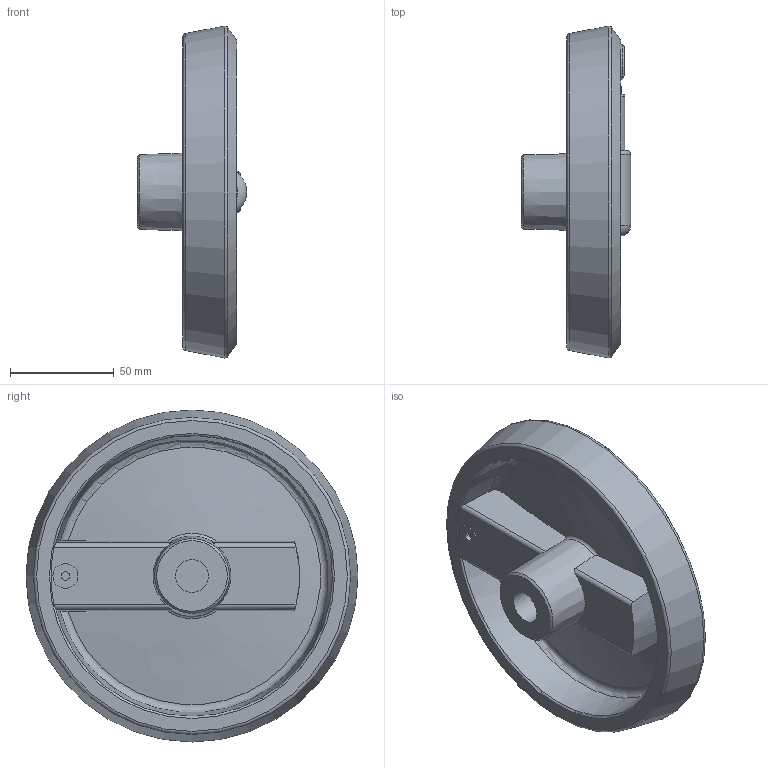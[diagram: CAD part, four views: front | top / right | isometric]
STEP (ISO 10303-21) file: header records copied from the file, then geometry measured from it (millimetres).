
FILE_DESCRIPTION( ( 'STEP AP203' ), '1' );
FILE_NAME( 'C:/Temp/Ganter_Step_05_03_2020/data/1_3/gn_923_7/gn_923_7_b/Handwheel with retractable handle GN 923.7-160-B16-R-SW (unactivated).stp', '2020-03-05T10:40:08', ( 'License CC BY-ND 4.0' ), ( 'CADENAS' ), ' ', 'PARTsolutions', ' ' );
FILE_SCHEMA( ( 'CONFIG_CONTROL_DESIGN' ) );
Length unit declared in the file: millimetre
Products named in the file (3): Handwheel with retractable handle GN 923.7-160-B16-R-SW (unactivated); _Umleggriff-Handrad GN 923.7-160-B16-R-SW-1; _Umleggriff-Handrad GN 923.7-160-B16-R-SW (0)-2
Assembly tree (2 placements, depth 2):
  Handwheel with retractable handle GN 923.7-160-B16-R-SW (unactivated)
    _Umleggriff-Handrad GN 923.7-160-B16-R-SW-1
    _Umleggriff-Handrad GN 923.7-160-B16-R-SW (0)-2
Bounding box: 52.7 x 160 x 160 mm (x, y, z)
Volume: 262280.1 mm3; surface area: 78193.1 mm2
Topology: 2 solids, 2 shells, 108 faces, 259 edges, 163 vertices
Faces by surface type: plane 45, cylinder 29, torus 14, cone 12, bspline 6, sphere 2
Full cylindrical faces by diameter (mm): 4 x2, 5 x1, 8 x1, 12 x1, 15 x1, 16 x1, 18.5 x1, 20 x1, 23 x2, 24 x1
Entity records: 3521 total; most frequent: CARTESIAN_POINT 1081, DIRECTION 489, ORIENTED_EDGE 450, EDGE_CURVE 225, AXIS2_PLACEMENT_3D 209, VERTEX_POINT 157, EDGE_LOOP 145, FACE_OUTER_BOUND 127
